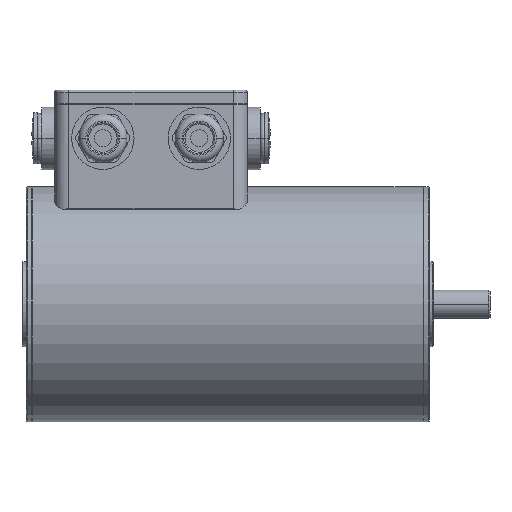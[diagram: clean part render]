
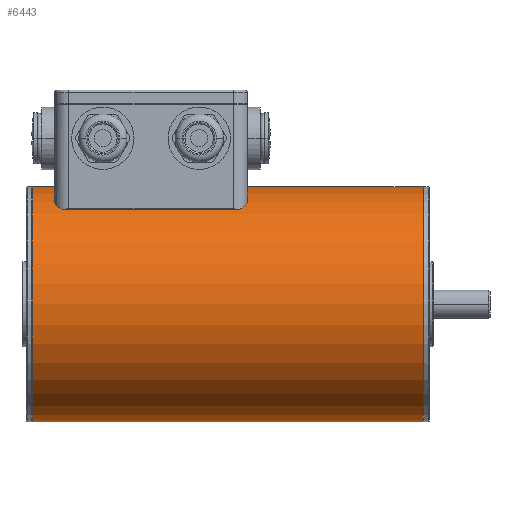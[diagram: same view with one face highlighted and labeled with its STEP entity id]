
A CAD part, top view. The second image highlights one B-rep face of the part: STEP entity #6443.
In plain terms, the highlighted cylindrical face has radius 41.5 mm (diameter 83 mm), a partial arc.
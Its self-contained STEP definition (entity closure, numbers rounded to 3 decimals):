
#32 = CARTESIAN_POINT ( 'NONE',  ( -2., 41.5, 0. ) ) ;
#1433 = EDGE_CURVE ( 'NONE', #4165, #11997, #5933, .T. ) ;
#1478 = DIRECTION ( 'NONE',  ( 1., 0., 0. ) ) ;
#1810 = DIRECTION ( 'NONE',  ( 1., 0., 0. ) ) ;
#2015 = FACE_OUTER_BOUND ( 'NONE', #4770, .T. ) ;
#2447 = AXIS2_PLACEMENT_3D ( 'NONE', #7555, #1810, #8529 ) ;
#2503 = EDGE_CURVE ( 'NONE', #12202, #10902, #3796, .T. ) ;
#2891 = AXIS2_PLACEMENT_3D ( 'NONE', #8192, #1478, #5988 ) ;
#2892 = VECTOR ( 'NONE', #11125, 1000. ) ;
#3339 = CYLINDRICAL_SURFACE ( 'NONE', #2891, 41.5 ) ;
#3796 = CIRCLE ( 'NONE', #10015, 41.5 ) ;
#4165 = VERTEX_POINT ( 'NONE', #9240 ) ;
#4435 = LINE ( 'NONE', #32, #11498 ) ;
#4462 = ORIENTED_EDGE ( 'NONE', *, *, #2503, .T. ) ;
#4541 = CARTESIAN_POINT ( 'NONE',  ( -139.9, 41.5, 0. ) ) ;
#4758 = DIRECTION ( 'NONE',  ( 1., 0., 0. ) ) ;
#4770 = EDGE_LOOP ( 'NONE', ( #4462, #11767, #10384, #11217 ) ) ;
#5249 = CARTESIAN_POINT ( 'NONE',  ( -139.9, -41.5, 0. ) ) ;
#5368 = CARTESIAN_POINT ( 'NONE',  ( -2., -41.5, 0. ) ) ;
#5758 = DIRECTION ( 'NONE',  ( 1., 0., 0. ) ) ;
#5933 = CIRCLE ( 'NONE', #2447, 41.5 ) ;
#5988 = DIRECTION ( 'NONE',  ( 0., 1., 0. ) ) ;
#6443 = ADVANCED_FACE ( 'NONE', ( #2015 ), #3339, .T. ) ;
#7170 = EDGE_CURVE ( 'NONE', #10902, #11997, #7705, .T. ) ;
#7555 = CARTESIAN_POINT ( 'NONE',  ( -2.1, 0., 0. ) ) ;
#7705 = LINE ( 'NONE', #5368, #2892 ) ;
#7976 = CARTESIAN_POINT ( 'NONE',  ( -2.1, -41.5, 0. ) ) ;
#8192 = CARTESIAN_POINT ( 'NONE',  ( -2., 0., 0. ) ) ;
#8529 = DIRECTION ( 'NONE',  ( 0., 1., 0. ) ) ;
#9240 = CARTESIAN_POINT ( 'NONE',  ( -2.1, 41.5, 0. ) ) ;
#10015 = AXIS2_PLACEMENT_3D ( 'NONE', #10523, #4758, #11484 ) ;
#10384 = ORIENTED_EDGE ( 'NONE', *, *, #1433, .F. ) ;
#10523 = CARTESIAN_POINT ( 'NONE',  ( -139.9, 0., 0. ) ) ;
#10902 = VERTEX_POINT ( 'NONE', #5249 ) ;
#11125 = DIRECTION ( 'NONE',  ( 1., 0., 0. ) ) ;
#11185 = EDGE_CURVE ( 'NONE', #12202, #4165, #4435, .T. ) ;
#11217 = ORIENTED_EDGE ( 'NONE', *, *, #11185, .F. ) ;
#11484 = DIRECTION ( 'NONE',  ( 0., 1., 0. ) ) ;
#11498 = VECTOR ( 'NONE', #5758, 1000. ) ;
#11767 = ORIENTED_EDGE ( 'NONE', *, *, #7170, .T. ) ;
#11997 = VERTEX_POINT ( 'NONE', #7976 ) ;
#12202 = VERTEX_POINT ( 'NONE', #4541 ) ;
